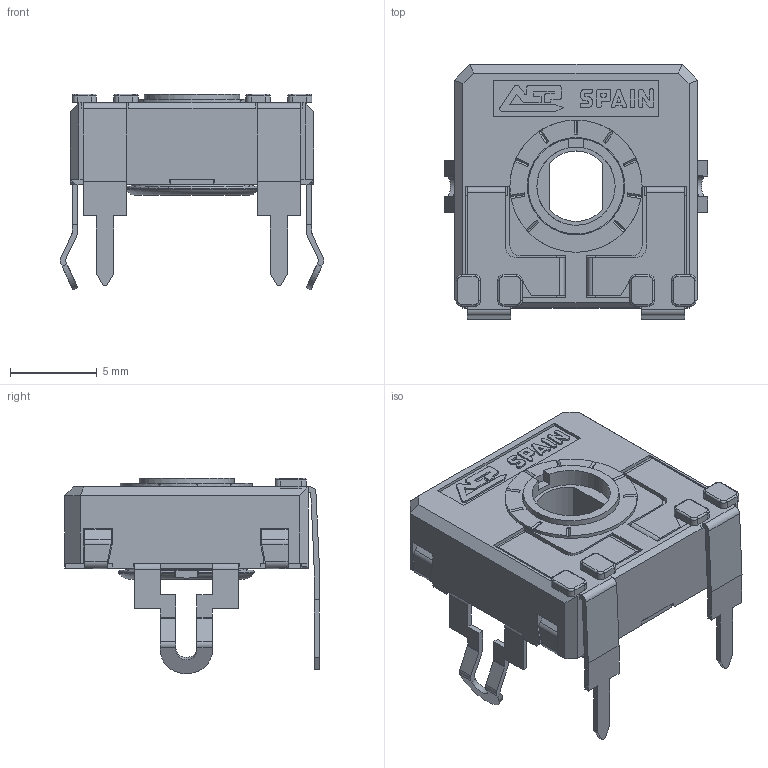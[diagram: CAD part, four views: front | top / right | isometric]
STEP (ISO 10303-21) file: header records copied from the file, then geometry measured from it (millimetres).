
FILE_DESCRIPTION(/* description */ (''),/* implementation_level */ '2;1');
FILE_NAME(/* name */ '\\SERVERACP\intercambio\Ignacio Santa Cecilia\Nueva WEB 2025\CA14 - CE14\CA14ZVD7,5.stp',/* time_stamp */ '2025-07-01T10:38:28+02:00',/* author */ ('CEM'),/* organization */ (''),/* preprocessor_version */ 'ST-DEVELOPER v17',/* originating_system */ 'Autodesk Inventor 2018',/* authorisation */ '');
FILE_SCHEMA (('AUTOMOTIVE_DESIGN { 1 0 10303 214 3 1 1 }'));
Length unit declared in the file: millimetre
Products named in the file (1): CARCASA CA14 PGA
Bounding box: 15.16 x 14.65 x 11.25 mm (x, y, z)
Volume: 542 mm3; surface area: 1548.6 mm2
Topology: 1 solids, 1 shells, 728 faces, 2070 edges, 1334 vertices
Faces by surface type: plane 530, cylinder 161, torus 23, bspline 8, cone 6
Full cylindrical faces by diameter (mm): 4.5 x1, 5.5 x1, 5.6 x1, 5.752 x1, 6.8 x1, 7.6 x1
Entity records: 23931 total; most frequent: CARTESIAN_POINT 4430, ORIENTED_EDGE 4140, DIRECTION 3879, EDGE_CURVE 2070, LINE 1613, VECTOR 1613, VERTEX_POINT 1334, AXIS2_PLACEMENT_3D 1133
